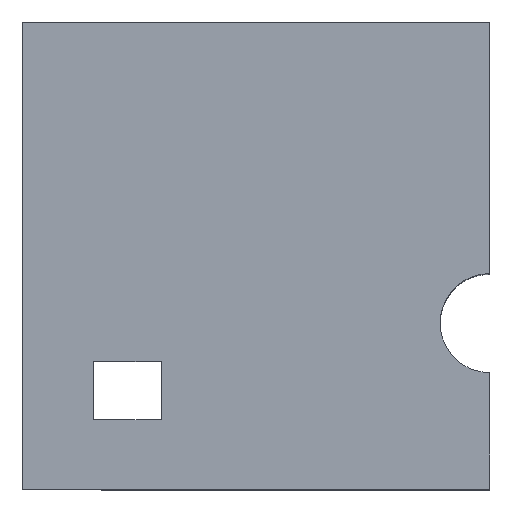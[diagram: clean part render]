
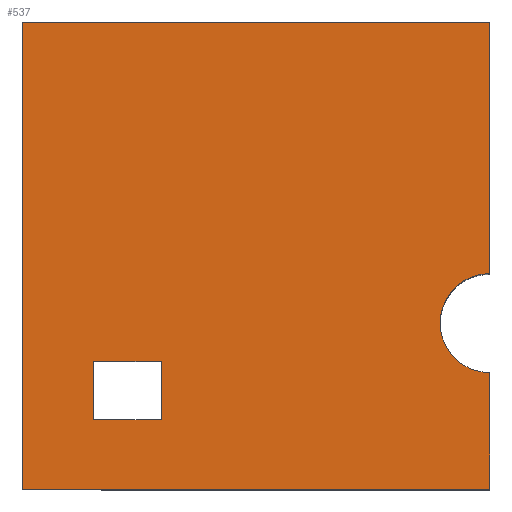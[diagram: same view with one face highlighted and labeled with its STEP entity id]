
A CAD part, top view. The second image highlights one B-rep face of the part: STEP entity #537.
In plain terms, the highlighted planar face has unit normal (0, 0, 1).
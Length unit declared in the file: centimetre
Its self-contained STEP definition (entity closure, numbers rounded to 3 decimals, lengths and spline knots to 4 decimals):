
#36 = EDGE_LOOP ( 'NONE', ( #358, #199, #877, #463 ) ) ;
#37 = CARTESIAN_POINT ( 'NONE',  ( 1000., 461.5053, 1000. ) ) ;
#45 = CARTESIAN_POINT ( 'NONE',  ( 152.5713, 148.1411, 1000. ) ) ;
#47 = LINE ( 'NONE', #1057, #887 ) ;
#57 = VERTEX_POINT ( 'NONE', #1028 ) ;
#67 = EDGE_CURVE ( 'NONE', #145, #288, #106, .T. ) ;
#106 = LINE ( 'NONE', #547, #936 ) ;
#145 = VERTEX_POINT ( 'NONE', #37 ) ;
#153 = DIRECTION ( 'NONE',  ( 1., 0., 0. ) ) ;
#162 = LINE ( 'NONE', #1398, #1113 ) ;
#166 = VERTEX_POINT ( 'NONE', #711 ) ;
#173 = VERTEX_POINT ( 'NONE', #373 ) ;
#175 = CARTESIAN_POINT ( 'NONE',  ( 1000., 249.6137, 1000. ) ) ;
#177 = ORIENTED_EDGE ( 'NONE', *, *, #430, .T. ) ;
#197 = CARTESIAN_POINT ( 'NONE',  ( 152.5713, 274.1522, 1000. ) ) ;
#199 = ORIENTED_EDGE ( 'NONE', *, *, #612, .F. ) ;
#202 = VERTEX_POINT ( 'NONE', #45 ) ;
#204 = LINE ( 'NONE', #197, #763 ) ;
#254 = DIRECTION ( 'NONE',  ( 0., -1., 0. ) ) ;
#288 = VERTEX_POINT ( 'NONE', #1192 ) ;
#298 = ORIENTED_EDGE ( 'NONE', *, *, #393, .F. ) ;
#346 = DIRECTION ( 'NONE',  ( 0., -1., 0. ) ) ;
#351 = CARTESIAN_POINT ( 'NONE',  ( 152.5713, 148.1411, 1000. ) ) ;
#358 = ORIENTED_EDGE ( 'NONE', *, *, #1054, .F. ) ;
#373 = CARTESIAN_POINT ( 'NONE',  ( 1000., 0., 1000. ) ) ;
#384 = AXIS2_PLACEMENT_3D ( 'NONE', #836, #1406, #1282 ) ;
#393 = EDGE_CURVE ( 'NONE', #145, #474, #409, .T. ) ;
#409 = CIRCLE ( 'NONE', #1418, 105.9458 ) ;
#430 = EDGE_CURVE ( 'NONE', #542, #590, #624, .T. ) ;
#463 = ORIENTED_EDGE ( 'NONE', *, *, #706, .F. ) ;
#466 = CARTESIAN_POINT ( 'NONE',  ( 297.0694, 148.1411, 1000. ) ) ;
#474 = VERTEX_POINT ( 'NONE', #175 ) ;
#480 = VECTOR ( 'NONE', #1036, 100. ) ;
#503 = CARTESIAN_POINT ( 'NONE',  ( 1000., 1000., 1000. ) ) ;
#518 = EDGE_CURVE ( 'NONE', #590, #173, #162, .T. ) ;
#537 = ADVANCED_FACE ( 'NONE', ( #950, #844 ), #1387, .T. ) ;
#542 = VERTEX_POINT ( 'NONE', #1288 ) ;
#547 = CARTESIAN_POINT ( 'NONE',  ( 1000., 1000., 1000. ) ) ;
#553 = CARTESIAN_POINT ( 'NONE',  ( 0., 0., 1000. ) ) ;
#580 = LINE ( 'NONE', #503, #480 ) ;
#590 = VERTEX_POINT ( 'NONE', #553 ) ;
#612 = EDGE_CURVE ( 'NONE', #57, #166, #204, .T. ) ;
#624 = LINE ( 'NONE', #1166, #1135 ) ;
#651 = DIRECTION ( 'NONE',  ( 0., 0., 1. ) ) ;
#658 = LINE ( 'NONE', #1108, #837 ) ;
#683 = VERTEX_POINT ( 'NONE', #466 ) ;
#689 = ORIENTED_EDGE ( 'NONE', *, *, #896, .T. ) ;
#706 = EDGE_CURVE ( 'NONE', #202, #683, #1458, .T. ) ;
#711 = CARTESIAN_POINT ( 'NONE',  ( 152.5713, 274.1522, 1000. ) ) ;
#738 = DIRECTION ( 'NONE',  ( -1., 0., 0. ) ) ;
#763 = VECTOR ( 'NONE', #1431, 100. ) ;
#773 = CARTESIAN_POINT ( 'NONE',  ( 1000., 355.5595, 1000. ) ) ;
#836 = CARTESIAN_POINT ( 'NONE',  ( 0., 0., 1000. ) ) ;
#837 = VECTOR ( 'NONE', #1448, 100. ) ;
#844 = FACE_OUTER_BOUND ( 'NONE', #965, .T. ) ;
#846 = EDGE_CURVE ( 'NONE', #173, #474, #580, .T. ) ;
#877 = ORIENTED_EDGE ( 'NONE', *, *, #1428, .F. ) ;
#887 = VECTOR ( 'NONE', #254, 100. ) ;
#896 = EDGE_CURVE ( 'NONE', #288, #542, #962, .T. ) ;
#936 = VECTOR ( 'NONE', #1449, 100. ) ;
#950 = FACE_BOUND ( 'NONE', #36, .T. ) ;
#962 = LINE ( 'NONE', #1403, #1345 ) ;
#965 = EDGE_LOOP ( 'NONE', ( #298, #1167, #689, #177, #980, #1154 ) ) ;
#980 = ORIENTED_EDGE ( 'NONE', *, *, #518, .T. ) ;
#1028 = CARTESIAN_POINT ( 'NONE',  ( 297.0694, 274.1522, 1000. ) ) ;
#1036 = DIRECTION ( 'NONE',  ( 0., 1., 0. ) ) ;
#1054 = EDGE_CURVE ( 'NONE', #166, #202, #47, .T. ) ;
#1057 = CARTESIAN_POINT ( 'NONE',  ( 152.5713, 148.1411, 1000. ) ) ;
#1091 = VECTOR ( 'NONE', #1147, 100. ) ;
#1101 = DIRECTION ( 'NONE',  ( 1., 0., 0. ) ) ;
#1108 = CARTESIAN_POINT ( 'NONE',  ( 297.0694, 148.1411, 1000. ) ) ;
#1113 = VECTOR ( 'NONE', #153, 100. ) ;
#1135 = VECTOR ( 'NONE', #346, 100. ) ;
#1147 = DIRECTION ( 'NONE',  ( 1., 0., 0. ) ) ;
#1154 = ORIENTED_EDGE ( 'NONE', *, *, #846, .T. ) ;
#1166 = CARTESIAN_POINT ( 'NONE',  ( 0., 1000., 1000. ) ) ;
#1167 = ORIENTED_EDGE ( 'NONE', *, *, #67, .T. ) ;
#1192 = CARTESIAN_POINT ( 'NONE',  ( 1000., 1000., 1000. ) ) ;
#1282 = DIRECTION ( 'NONE',  ( 1., 0., 0. ) ) ;
#1288 = CARTESIAN_POINT ( 'NONE',  ( 0., 1000., 1000. ) ) ;
#1345 = VECTOR ( 'NONE', #738, 100. ) ;
#1387 = PLANE ( 'NONE',  #384 ) ;
#1398 = CARTESIAN_POINT ( 'NONE',  ( 0., 0., 1000. ) ) ;
#1403 = CARTESIAN_POINT ( 'NONE',  ( 0., 1000., 1000. ) ) ;
#1406 = DIRECTION ( 'NONE',  ( 0., 0., 1. ) ) ;
#1418 = AXIS2_PLACEMENT_3D ( 'NONE', #773, #651, #1101 ) ;
#1428 = EDGE_CURVE ( 'NONE', #683, #57, #658, .T. ) ;
#1431 = DIRECTION ( 'NONE',  ( -1., 0., 0. ) ) ;
#1448 = DIRECTION ( 'NONE',  ( 0., 1., 0. ) ) ;
#1449 = DIRECTION ( 'NONE',  ( 0., 1., 0. ) ) ;
#1458 = LINE ( 'NONE', #351, #1091 ) ;
